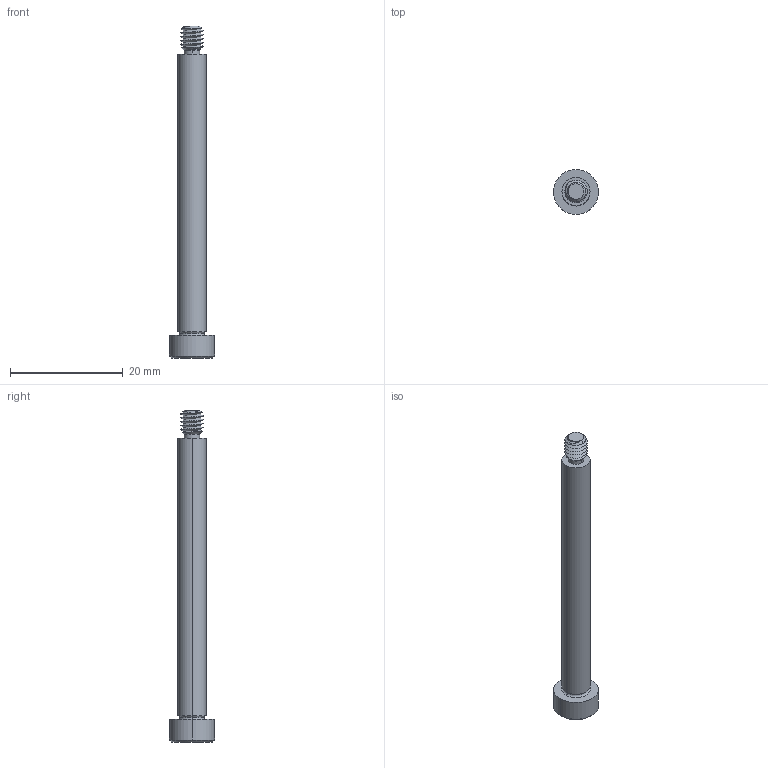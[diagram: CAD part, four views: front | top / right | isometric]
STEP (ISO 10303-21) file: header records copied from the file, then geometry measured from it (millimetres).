
FILE_DESCRIPTION (( 'STEP AP203' ), '1' );
FILE_NAME ('P0130.050-050-B2.step', '2021-11-09T21:19:05', ( '' ), ( '' ), 'SwSTEP 2.0', 'SolidWorks 2019', '' );
FILE_SCHEMA (( 'CONFIG_CONTROL_DESIGN' ));
Length unit declared in the file: millimetre
Products named in the file (1): P0130.050-050-B2
Bounding box: 8 x 8 x 59 mm (x, y, z)
Volume: 1205.8 mm3; surface area: 1100.9 mm2
Topology: 1 solids, 1 shells, 53 faces, 121 edges, 71 vertices
Faces by surface type: cylinder 16, plane 16, cone 15, torus 4, bspline 2
Entity records: 2151 total; most frequent: CARTESIAN_POINT 968, ORIENTED_EDGE 238, DIRECTION 226, EDGE_CURVE 119, AXIS2_PLACEMENT_3D 92, VERTEX_POINT 71, EDGE_LOOP 56, ADVANCED_FACE 53
